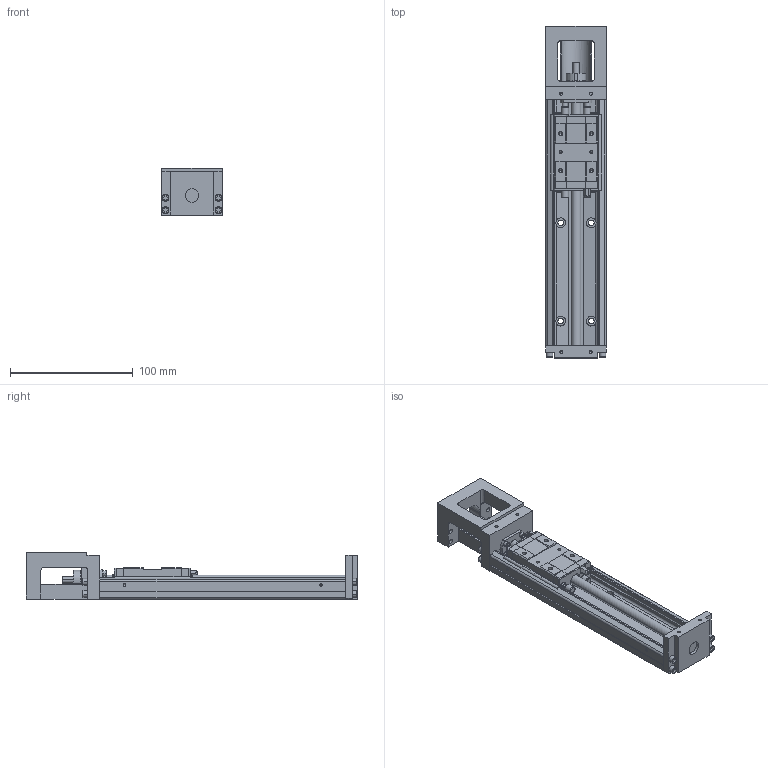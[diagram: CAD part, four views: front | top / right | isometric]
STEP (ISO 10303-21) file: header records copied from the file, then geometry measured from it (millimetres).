
FILE_DESCRIPTION(('no description'),'unknown implementation level');
FILE_NAME('KK5002P200A1F0000_FILE_12.stp',' ',('HIWIN GmbH'),('CADClick - KiM GmbH - www.kimweb.de'),'unknown preprocess','ACIS','unknown authorization');
FILE_SCHEMA(('automotive_design'));
Length unit declared in the file: millimetre
Products named in the file (2): KK50_FILE; KK5002P200A1F0000_FILE
Bounding box: 50 x 270 x 38.5 mm (x, y, z)
Volume: 212370.5 mm3; surface area: 70983.2 mm2
Topology: 2 solids, 10 shells, 664 faces, 1702 edges, 1075 vertices
Faces by surface type: plane 383, cylinder 189, cone 50, torus 42
Entity records: 39504 total; most frequent: CARTESIAN_POINT 4011, DIRECTION 3506, STYLED_ITEM 3409, PRESENTATION_STYLE_ASSIGNMENT 3409, COLOUR_RGB 3409, ORIENTED_EDGE 3336, EDGE_CURVE 1668, CURVE_STYLE 1668
